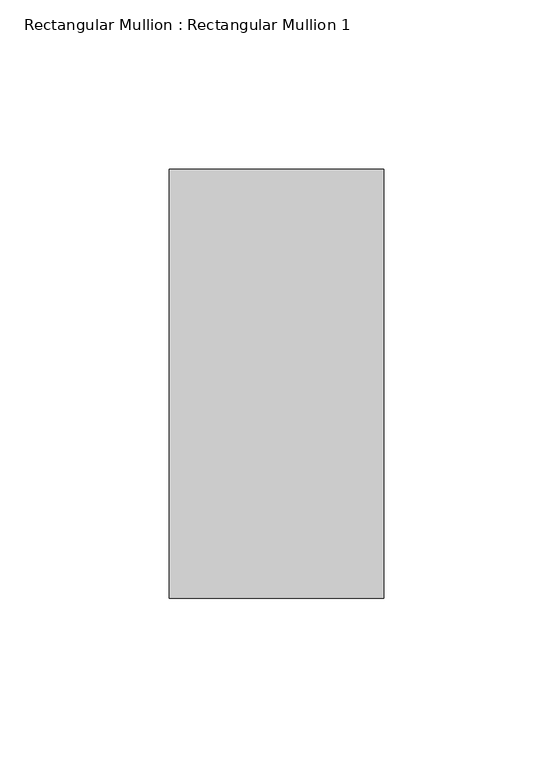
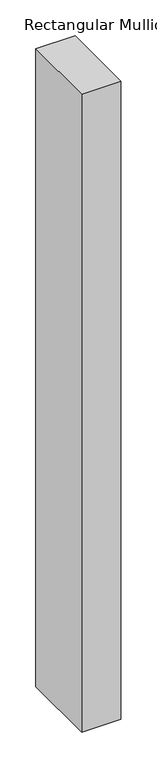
"""IFC4 building model written with IfcOpenShell, lengths in millimetres: member geometry, Rectangular Mullion : Rectangular Mullion 1."""

from ifc_helpers import new_model, si_unit, frame, origin, place, context, project, spatial, polyline, outline, extrude, source, transform, mapped, element, save


def rectangular_mullion_rectangular_mullion_1_aa096312(model_context):
    return source(origin(), model_context, "Body", "SweptSolid", [
        extrude(outline(polyline([(31.75, 63.5), (31.75, -63.5), (-31.75, -63.5), (-31.75, 63.5), (31.75, 63.5)])), frame((0.0, 0.0, -1084.2624997), z_axis=(0.0, 0.0, 1.0), x_axis=(1.0, 0.0, 0.0)), (0.0, 0.0, 1.0), 1084.2624997),
    ])


if __name__ == "__main__":
    model = new_model("IFC4")
    model_context = context("Model", 3, world=origin())
    ifc_project = project(units=[si_unit("LENGTHUNIT", "METRE", prefix="MILLI")], contexts=[model_context])
    site = spatial("IfcSite", under=ifc_project)
    building = spatial("IfcBuilding", under=site)
    placement = place(None, origin())
    rectangular_mullion_rectangular_mullion_1_shape = rectangular_mullion_rectangular_mullion_1_aa096312(model_context)
    element("IfcMember", 1, ObjectType="Rectangular Mullion : Rectangular Mullion 1", at=placement, inside=building, context=model_context, shape_type="MappedRepresentation", body=[
        mapped(rectangular_mullion_rectangular_mullion_1_shape, transform((0.0, 0.0, 0.0), x_axis=(1.0, 0.0, 0.0), y_axis=(0.0, 1.0, 0.0), z_axis=(0.0, 0.0, 1.0))),
    ])
    save(model, "model.ifc")
